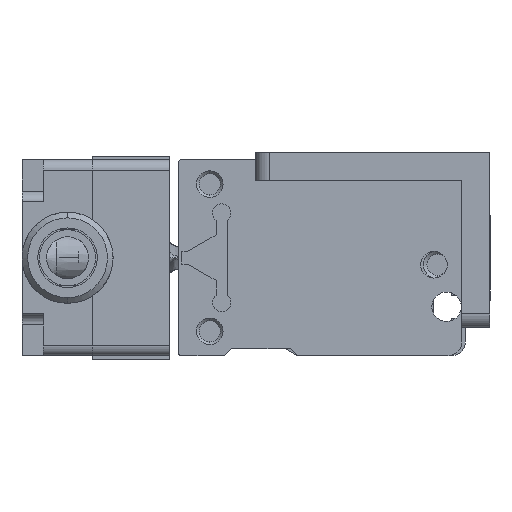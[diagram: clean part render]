
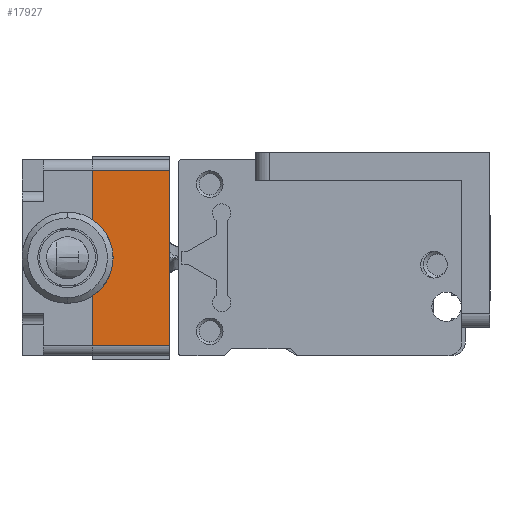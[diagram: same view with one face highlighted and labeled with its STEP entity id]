
A CAD part, left-side view. The second image highlights one B-rep face of the part: STEP entity #17927.
In plain terms, the highlighted planar face has unit normal (-1, 0, 0).
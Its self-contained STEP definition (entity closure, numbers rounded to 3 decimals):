
#241 = CARTESIAN_POINT ( 'NONE',  ( -0.373, -45.718, 12.5 ) ) ;
#1824 = VERTEX_POINT ( 'NONE', #241 ) ;
#2161 = VERTEX_POINT ( 'NONE', #17413 ) ;
#3881 = CARTESIAN_POINT ( 'NONE',  ( -0.373, -56.938, 13. ) ) ;
#3882 = PLANE ( 'NONE',  #10120 ) ;
#3884 = DIRECTION ( 'NONE',  ( 1., 0., 0. ) ) ;
#3885 = DIRECTION ( 'NONE',  ( 0., 0., -1. ) ) ;
#5574 = VERTEX_POINT ( 'NONE', #14774 ) ;
#5594 = VERTEX_POINT ( 'NONE', #14748 ) ;
#5612 = EDGE_CURVE ( 'NONE', #5574, #2161, #15447, .T. ) ;
#5613 = EDGE_CURVE ( 'NONE', #2161, #1824, #15458, .T. ) ;
#5616 = EDGE_CURVE ( 'NONE', #1824, #5594, #15465, .T. ) ;
#5617 = EDGE_CURVE ( 'NONE', #5574, #5594, #15456, .T. ) ;
#8524 = FACE_OUTER_BOUND ( 'NONE', #14438, .T. ) ;
#10120 = AXIS2_PLACEMENT_3D ( 'NONE', #3881, #3884, #3885 ) ;
#14438 = EDGE_LOOP ( 'NONE', ( #19064, #19009, #19013, #19073 ) ) ;
#14748 = CARTESIAN_POINT ( 'NONE',  ( -0.373, -56.718, 12.5 ) ) ;
#14774 = CARTESIAN_POINT ( 'NONE',  ( -0.373, -56.718, -12.5 ) ) ;
#15447 = LINE ( 'NONE', #17872, #15454 ) ;
#15454 = VECTOR ( 'NONE', #17858, 1000. ) ;
#15456 = LINE ( 'NONE', #17838, #15473 ) ;
#15458 = LINE ( 'NONE', #17855, #15460 ) ;
#15460 = VECTOR ( 'NONE', #17854, 1000. ) ;
#15465 = LINE ( 'NONE', #17870, #15469 ) ;
#15469 = VECTOR ( 'NONE', #17834, 1000. ) ;
#15473 = VECTOR ( 'NONE', #17827, 1000. ) ;
#17413 = CARTESIAN_POINT ( 'NONE',  ( -0.373, -45.718, -12.5 ) ) ;
#17827 = DIRECTION ( 'NONE',  ( 0., 0., 1. ) ) ;
#17834 = DIRECTION ( 'NONE',  ( 0., -1., 0. ) ) ;
#17838 = CARTESIAN_POINT ( 'NONE',  ( -0.373, -56.718, 15.08 ) ) ;
#17854 = DIRECTION ( 'NONE',  ( 0., 0., 1. ) ) ;
#17855 = CARTESIAN_POINT ( 'NONE',  ( -0.373, -45.718, 15.08 ) ) ;
#17858 = DIRECTION ( 'NONE',  ( 0., 1., 0. ) ) ;
#17870 = CARTESIAN_POINT ( 'NONE',  ( -0.373, -45.718, 12.5 ) ) ;
#17872 = CARTESIAN_POINT ( 'NONE',  ( -0.373, -56.938, -12.5 ) ) ;
#17927 = ADVANCED_FACE ( 'NONE', ( #8524 ), #3882, .F. ) ;
#19009 = ORIENTED_EDGE ( 'NONE', *, *, #5616, .F. ) ;
#19013 = ORIENTED_EDGE ( 'NONE', *, *, #5613, .F. ) ;
#19064 = ORIENTED_EDGE ( 'NONE', *, *, #5617, .T. ) ;
#19073 = ORIENTED_EDGE ( 'NONE', *, *, #5612, .F. ) ;
